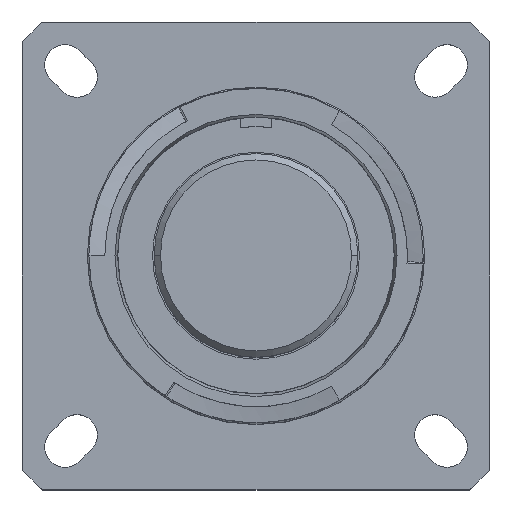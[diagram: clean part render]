
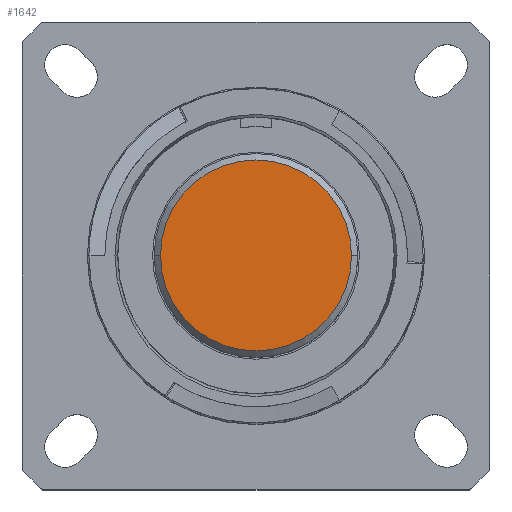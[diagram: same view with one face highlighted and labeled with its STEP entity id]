
A CAD part, top view. The second image highlights one B-rep face of the part: STEP entity #1642.
In plain terms, the highlighted planar face has unit normal (0, 0, 1).
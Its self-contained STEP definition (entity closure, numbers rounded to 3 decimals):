
#412 = VERTEX_POINT ( 'NONE', #3811 ) ;
#678 = ORIENTED_EDGE ( 'NONE', *, *, #2570, .T. ) ;
#1460 = EDGE_LOOP ( 'NONE', ( #3754, #678 ) ) ;
#1622 = DIRECTION ( 'NONE',  ( 0., 0., 1. ) ) ;
#1630 = CARTESIAN_POINT ( 'NONE',  ( 0., 0., -0.457 ) ) ;
#1642 = ADVANCED_FACE ( 'NONE', ( #2707 ), #4081, .T. ) ;
#1961 = EDGE_CURVE ( 'NONE', #5640, #412, #4437, .T. ) ;
#2439 = DIRECTION ( 'NONE',  ( 0., 0., 1. ) ) ;
#2541 = AXIS2_PLACEMENT_3D ( 'NONE', #5931, #1622, #3540 ) ;
#2570 = EDGE_CURVE ( 'NONE', #412, #5640, #5259, .T. ) ;
#2707 = FACE_OUTER_BOUND ( 'NONE', #1460, .T. ) ;
#2965 = DIRECTION ( 'NONE',  ( 1., 0., 0. ) ) ;
#3076 = DIRECTION ( 'NONE',  ( 1., 0., 0. ) ) ;
#3540 = DIRECTION ( 'NONE',  ( 1., 0., 0. ) ) ;
#3754 = ORIENTED_EDGE ( 'NONE', *, *, #1961, .T. ) ;
#3811 = CARTESIAN_POINT ( 'NONE',  ( 7.62, 0., -0.457 ) ) ;
#4081 = PLANE ( 'NONE',  #4777 ) ;
#4437 = CIRCLE ( 'NONE', #2541, 7.62 ) ;
#4654 = AXIS2_PLACEMENT_3D ( 'NONE', #4863, #2439, #2965 ) ;
#4777 = AXIS2_PLACEMENT_3D ( 'NONE', #1630, #6002, #3076 ) ;
#4863 = CARTESIAN_POINT ( 'NONE',  ( 0., 0., -0.457 ) ) ;
#5259 = CIRCLE ( 'NONE', #4654, 7.62 ) ;
#5624 = CARTESIAN_POINT ( 'NONE',  ( -7.62, 0., -0.457 ) ) ;
#5640 = VERTEX_POINT ( 'NONE', #5624 ) ;
#5931 = CARTESIAN_POINT ( 'NONE',  ( 0., 0., -0.457 ) ) ;
#6002 = DIRECTION ( 'NONE',  ( 0., 0., 1. ) ) ;
